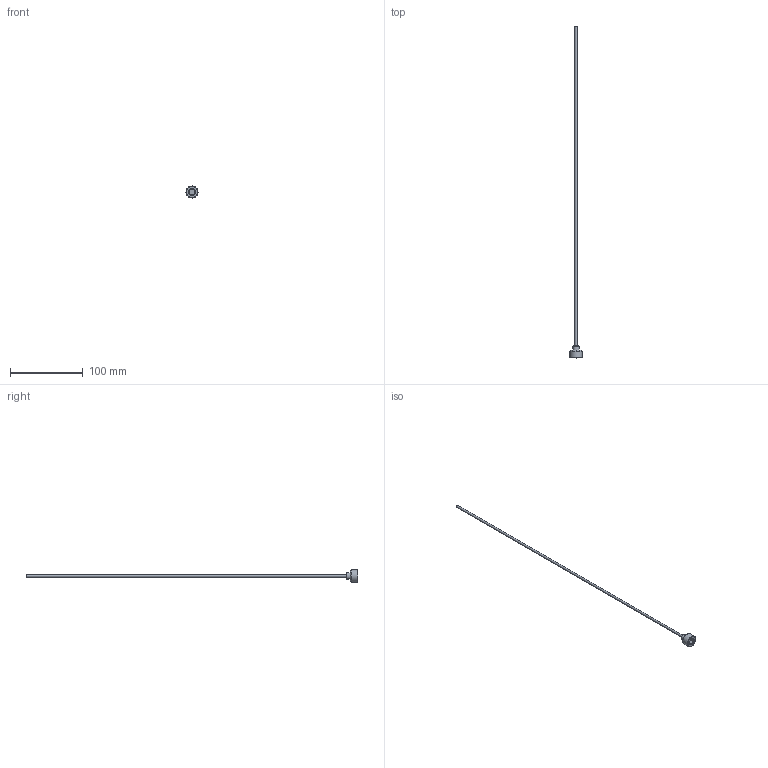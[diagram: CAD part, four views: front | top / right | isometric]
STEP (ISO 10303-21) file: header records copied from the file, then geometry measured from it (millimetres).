
FILE_DESCRIPTION(/* description */ (''),/* implementation_level */ '2;1');
FILE_NAME(/* name */ 'C:/Users/drich/Desktop/DR-375 v2.step',/* time_stamp */ '2020-01-08T16:10:35-06:00',/* author */ (''),/* organization */ (''),/* preprocessor_version */ 'ST-DEVELOPER v18',/* originating_system */ 'Autodesk Translation Framework v8.12.0.6',/* authorisation */ '');
FILE_SCHEMA (('AUTOMOTIVE_DESIGN { 1 0 10303 214 3 1 1 }'));
Length unit declared in the file: inch
Products named in the file (1): DR-375
Bounding box: 16.54 x 457.2 x 16.54 mm (x, y, z)
Volume: 5550.8 mm3; surface area: 5708.8 mm2
Topology: 2 solids, 2 shells, 20 faces, 45 edges, 31 vertices
Faces by surface type: plane 12, cylinder 3, cone 3, torus 2
Full cylindrical faces by diameter (mm): 3.175 x1, 8.712 x1, 16.537 x1
Entity records: 609 total; most frequent: CARTESIAN_POINT 109, DIRECTION 102, ORIENTED_EDGE 90, EDGE_CURVE 45, AXIS2_PLACEMENT_3D 42, VERTEX_POINT 31, EDGE_LOOP 22, CIRCLE 21
